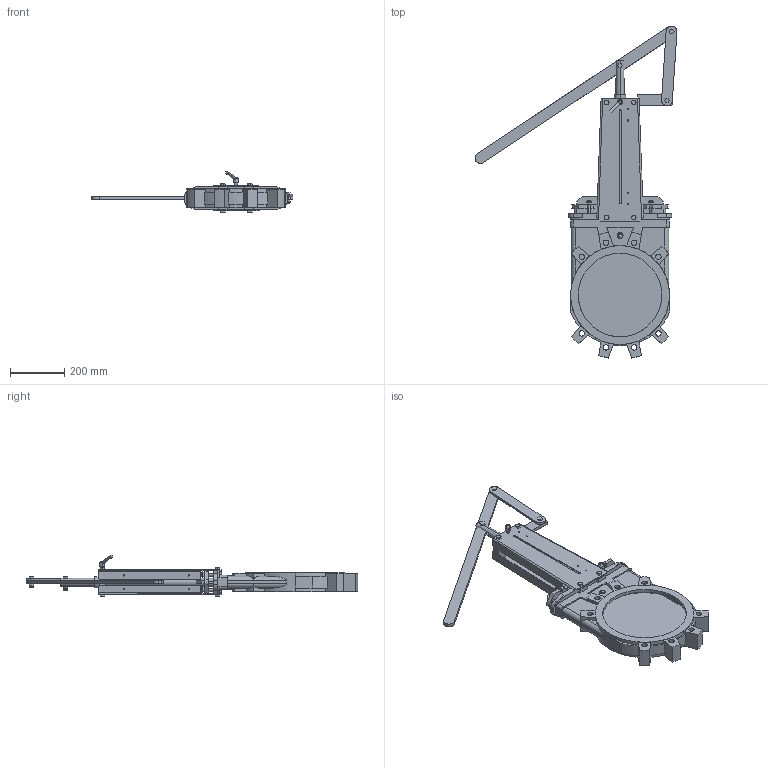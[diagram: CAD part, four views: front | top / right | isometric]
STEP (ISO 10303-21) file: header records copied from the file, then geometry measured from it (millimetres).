
FILE_DESCRIPTION (( 'STEP AP203' ), '1' );
FILE_NAME ('VG L DN300.STEP', '2012-10-03T12:39:21', ( '' ), ( '' ), 'SwSTEP 2.0', 'SolidWorks 2011', '' );
FILE_SCHEMA (( 'CONFIG_CONTROL_DESIGN' ));
Length unit declared in the file: millimetre
Products named in the file (1): VG L DN300
Bounding box: 745.24 x 1224.96 x 151.83 mm (x, y, z)
Volume: 8814076.6 mm3; surface area: 1288081.9 mm2
Topology: 2 solids, 10 shells, 915 faces, 2413 edges, 1567 vertices
Faces by surface type: plane 528, cylinder 254, cone 75, bspline 40, torus 18
Entity records: 31505 total; most frequent: CARTESIAN_POINT 8767, ORIENTED_EDGE 4826, DIRECTION 4574, EDGE_CURVE 2413, VERTEX_POINT 1567, AXIS2_PLACEMENT_3D 1564, VECTOR 1446, LINE 1446
